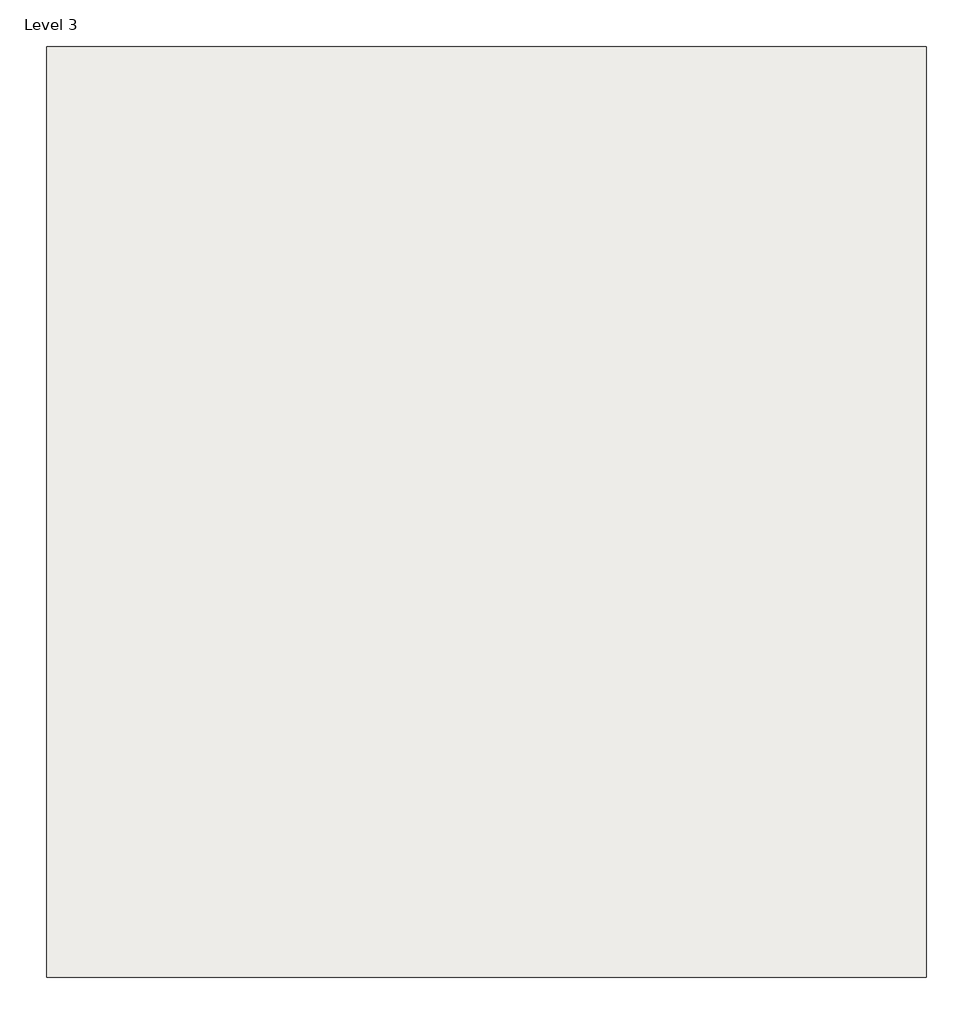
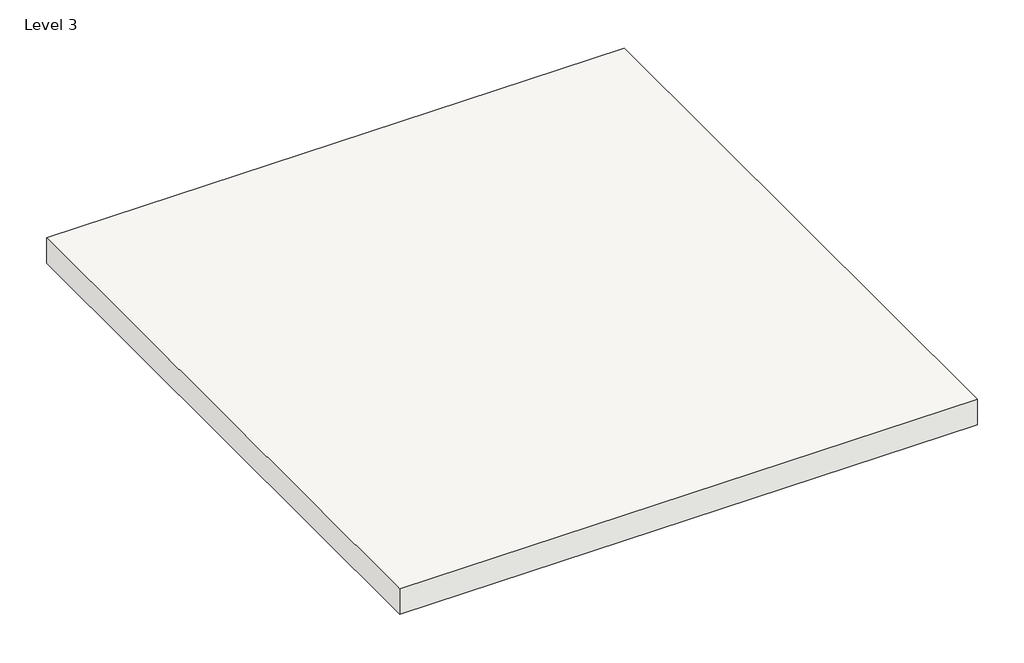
# One storey: 1 slab.
"""IFC4 building model written with IfcOpenShell, lengths in millimetres."""

from ifc_helpers import new_model, si_unit, frame, origin, place, context, project, spatial, polyline, outline, extrude, element, save

model = new_model("IFC4")

# Units and contexts
model_context = context("Model", 3, world=origin())
ifc_project = project(units=[si_unit("LENGTHUNIT", "METRE", prefix="MILLI")], contexts=[model_context])

# Site, building, storey
site = spatial("IfcSite", under=ifc_project)
building = spatial("IfcBuilding", under=site)
storey = spatial("IfcBuildingStorey", under=building, Name="Level 3", Elevation=5220.0)

# Slab
placement = place(None, origin())
element("IfcSlab", 1, ObjectType="Losa", at=placement, inside=storey, context=model_context, shape_type="SweptSolid", body=[
    extrude(outline(polyline([(5489.9992222, -2270.1157199), (5479.9992222, 729.8842801), (5620.0, 729.8842801), (5630.0, -2270.1157199), (5489.9992222, -2270.1157199)])), frame((0.0, -275.9818761, 0.0), z_axis=(0.0, 1.0, 0.0), x_axis=(0.0, 0.0, 1.0)), (0.0, 0.0, 1.0), 3175.0),
])

save(model, "model.ifc")
